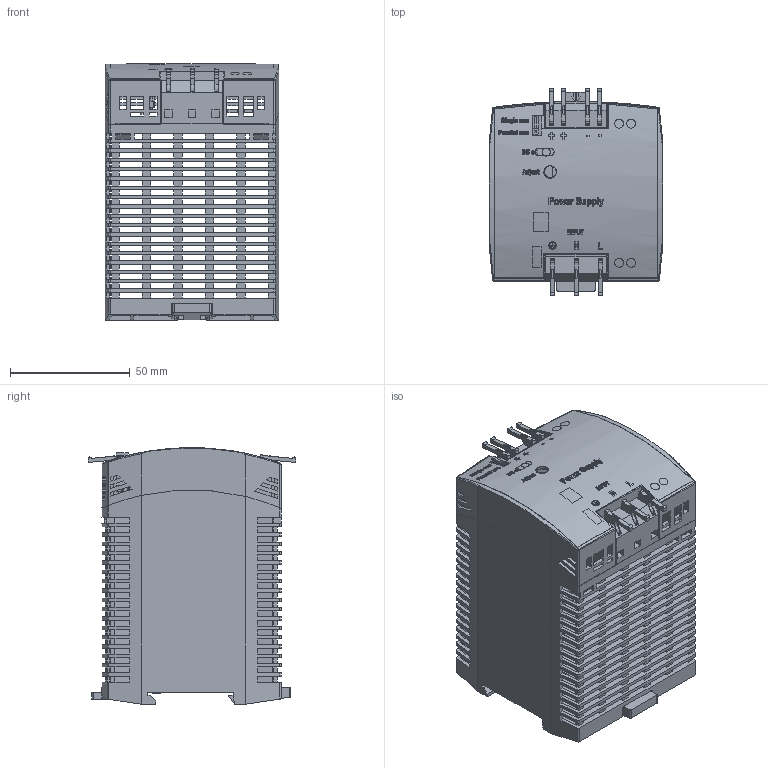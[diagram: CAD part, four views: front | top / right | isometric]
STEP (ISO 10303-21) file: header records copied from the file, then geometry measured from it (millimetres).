
FILE_DESCRIPTION((''),'2;1');
FILE_NAME('C:\Users\rahns\Desktop\Sylvia Info´s\Dateien für Vertrieb\ML100\100\md3_ml100_100.stp','2012-06-14T13:44:31',('rahns'),(''),'Autodesk Inventor 2009','Autodesk Inventor 2009','');
FILE_SCHEMA(('AUTOMOTIVE_DESIGN { 1 0 10303 214 1 1 1 1 }'));
Length unit declared in the file: millimetre
Products named in the file (9): 328; HOUSING BODY 328; HOUSING COVER 328; SLIDER 322; CONNECTOR 3P AA6; JUMPER; TERMINAL 4P R5+10_o; TERMINAL 3P R10; FRONTFOIL 328
Assembly tree (8 placements, depth 2):
  328
    HOUSING BODY 328
    HOUSING COVER 328
    SLIDER 322
    CONNECTOR 3P AA6
    JUMPER
    TERMINAL 4P R5+10_o
    TERMINAL 3P R10
    FRONTFOIL 328
Bounding box: 72.5 x 86.7 x 107.1 mm (x, y, z)
Volume: 69362.6 mm3; surface area: 104841.1 mm2
Topology: 11 solids, 15 shells, 2843 faces, 9104 edges, 6036 vertices
Faces by surface type: plane 2015, cylinder 433, bspline 379, cone 16
Full cylindrical faces by diameter (mm): 1.2 x7, 3.7 x4, 5.2 x1
Entity records: 219181 total; most frequent: CARTESIAN_POINT 137644, ORIENTED_EDGE 18182, DIRECTION 14288, EDGE_CURVE 9091, VECTOR 6700, LINE 6700, VERTEX_POINT 6035, AXIS2_PLACEMENT_3D 3794
